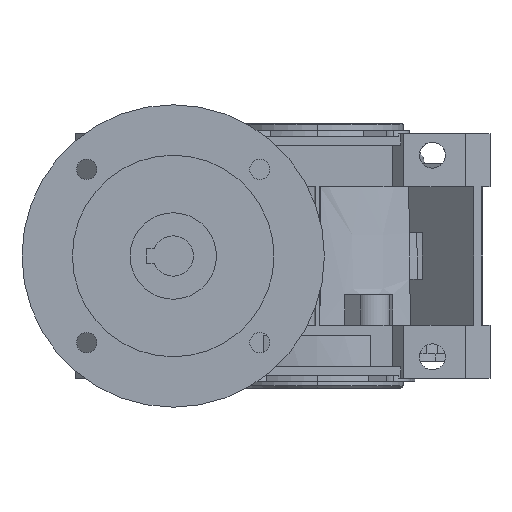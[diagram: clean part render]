
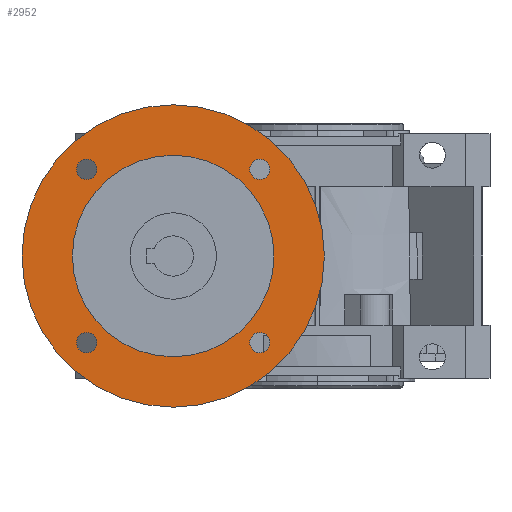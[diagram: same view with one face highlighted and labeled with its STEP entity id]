
A CAD part, left-side view. The second image highlights one B-rep face of the part: STEP entity #2952.
In plain terms, the highlighted planar face has unit normal (-1, 0, 0) as drawn and (1, 0, 0) by its records, which use the part's own axes.
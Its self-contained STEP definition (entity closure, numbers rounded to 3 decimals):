
#878 = CARTESIAN_POINT ( 'NONE',  ( 7., 0., -35. ) ) ;
#1840 = PLANE ( 'NONE',  #14402 ) ;
#1848 = ORIENTED_EDGE ( 'NONE', *, *, #2296, .F. ) ;
#2158 = CARTESIAN_POINT ( 'NONE',  ( 7., -30.052, -30.052 ) ) ;
#2296 = EDGE_CURVE ( 'NONE', #10609, #27817, #2341, .T. ) ;
#2341 = CIRCLE ( 'NONE', #9925, 3.5 ) ;
#2741 = CIRCLE ( 'NONE', #12490, 52.5 ) ;
#2952 = ADVANCED_FACE ( 'NONE', ( #3757, #27288, #18960, #32632, #22366, #17959 ), #1840, .F. ) ;
#3730 = CARTESIAN_POINT ( 'NONE',  ( 7., 30.052, -30.052 ) ) ;
#3757 = FACE_BOUND ( 'NONE', #29721, .T. ) ;
#4048 = AXIS2_PLACEMENT_3D ( 'NONE', #12158, #27523, #5608 ) ;
#4246 = CARTESIAN_POINT ( 'NONE',  ( 7., -30.052, 30.052 ) ) ;
#4553 = CARTESIAN_POINT ( 'NONE',  ( 7., 0., 0. ) ) ;
#4592 = ORIENTED_EDGE ( 'NONE', *, *, #9363, .F. ) ;
#4677 = EDGE_CURVE ( 'NONE', #39636, #30323, #18251, .T. ) ;
#4989 = CARTESIAN_POINT ( 'NONE',  ( 7., 30.052, 33.552 ) ) ;
#5204 = ORIENTED_EDGE ( 'NONE', *, *, #14499, .F. ) ;
#5250 = DIRECTION ( 'NONE',  ( 0., 0., 1. ) ) ;
#5608 = DIRECTION ( 'NONE',  ( 0., 1., 0. ) ) ;
#7645 = CIRCLE ( 'NONE', #35821, 35. ) ;
#8520 = EDGE_CURVE ( 'NONE', #30176, #20340, #35656, .T. ) ;
#9046 = CARTESIAN_POINT ( 'NONE',  ( 7., 0., 35. ) ) ;
#9363 = EDGE_CURVE ( 'NONE', #24656, #29842, #15992, .T. ) ;
#9758 = DIRECTION ( 'NONE',  ( 1., 0., 0. ) ) ;
#9884 = EDGE_CURVE ( 'NONE', #34877, #28606, #7645, .T. ) ;
#9925 = AXIS2_PLACEMENT_3D ( 'NONE', #35720, #35853, #32676 ) ;
#10235 = ORIENTED_EDGE ( 'NONE', *, *, #17240, .F. ) ;
#10363 = EDGE_CURVE ( 'NONE', #32055, #37561, #32056, .T. ) ;
#10387 = DIRECTION ( 'NONE',  ( 1., 0., 0. ) ) ;
#10609 = VERTEX_POINT ( 'NONE', #37401 ) ;
#10694 = EDGE_LOOP ( 'NONE', ( #4592, #28972 ) ) ;
#11110 = CIRCLE ( 'NONE', #37809, 3.5 ) ;
#11970 = DIRECTION ( 'NONE',  ( 1., 0., 0. ) ) ;
#12158 = CARTESIAN_POINT ( 'NONE',  ( 7., 30.052, 30.052 ) ) ;
#12449 = ORIENTED_EDGE ( 'NONE', *, *, #38571, .F. ) ;
#12490 = AXIS2_PLACEMENT_3D ( 'NONE', #31128, #18289, #21291 ) ;
#13698 = DIRECTION ( 'NONE',  ( 0., 0., 1. ) ) ;
#13792 = DIRECTION ( 'NONE',  ( 0., 0., -1. ) ) ;
#14402 = AXIS2_PLACEMENT_3D ( 'NONE', #33441, #20986, #30172 ) ;
#14419 = ORIENTED_EDGE ( 'NONE', *, *, #9884, .T. ) ;
#14499 = EDGE_CURVE ( 'NONE', #20340, #30176, #11110, .T. ) ;
#14801 = DIRECTION ( 'NONE',  ( -1., 0., 0. ) ) ;
#15128 = AXIS2_PLACEMENT_3D ( 'NONE', #2158, #27232, #39960 ) ;
#15194 = CARTESIAN_POINT ( 'NONE',  ( 7., 0., -52.5 ) ) ;
#15514 = DIRECTION ( 'NONE',  ( 0., -1., 0. ) ) ;
#15992 = CIRCLE ( 'NONE', #40274, 3.5 ) ;
#16795 = EDGE_LOOP ( 'NONE', ( #12449, #32021 ) ) ;
#16804 = AXIS2_PLACEMENT_3D ( 'NONE', #4553, #39316, #13698 ) ;
#17223 = AXIS2_PLACEMENT_3D ( 'NONE', #4246, #10387, #38604 ) ;
#17240 = EDGE_CURVE ( 'NONE', #27817, #10609, #37438, .T. ) ;
#17328 = EDGE_LOOP ( 'NONE', ( #14419, #20318 ) ) ;
#17959 = FACE_BOUND ( 'NONE', #17328, .T. ) ;
#18251 = CIRCLE ( 'NONE', #16804, 52.5 ) ;
#18289 = DIRECTION ( 'NONE',  ( -1., 0., 0. ) ) ;
#18960 = FACE_BOUND ( 'NONE', #10694, .T. ) ;
#20318 = ORIENTED_EDGE ( 'NONE', *, *, #36536, .T. ) ;
#20340 = VERTEX_POINT ( 'NONE', #23412 ) ;
#20986 = DIRECTION ( 'NONE',  ( -1., 0., 0. ) ) ;
#21084 = DIRECTION ( 'NONE',  ( 0., 0., 1. ) ) ;
#21199 = EDGE_LOOP ( 'NONE', ( #5204, #39967 ) ) ;
#21271 = CARTESIAN_POINT ( 'NONE',  ( 7., -30.052, -30.052 ) ) ;
#21291 = DIRECTION ( 'NONE',  ( 0., 0., 1. ) ) ;
#21499 = CIRCLE ( 'NONE', #17223, 3.5 ) ;
#22366 = FACE_OUTER_BOUND ( 'NONE', #16795, .T. ) ;
#23412 = CARTESIAN_POINT ( 'NONE',  ( 7., 30.052, -33.552 ) ) ;
#24656 = VERTEX_POINT ( 'NONE', #30375 ) ;
#25165 = ORIENTED_EDGE ( 'NONE', *, *, #10363, .F. ) ;
#26035 = DIRECTION ( 'NONE',  ( 1., 0., 0. ) ) ;
#26920 = EDGE_CURVE ( 'NONE', #29842, #24656, #39018, .T. ) ;
#27138 = DIRECTION ( 'NONE',  ( -1., 0., 0. ) ) ;
#27232 = DIRECTION ( 'NONE',  ( 1., 0., 0. ) ) ;
#27272 = CARTESIAN_POINT ( 'NONE',  ( 7., 30.052, -26.552 ) ) ;
#27288 = FACE_BOUND ( 'NONE', #31139, .T. ) ;
#27499 = CARTESIAN_POINT ( 'NONE',  ( 7., -30.052, -26.552 ) ) ;
#27523 = DIRECTION ( 'NONE',  ( 1., 0., 0. ) ) ;
#27545 = CARTESIAN_POINT ( 'NONE',  ( 7., 0., 0. ) ) ;
#27817 = VERTEX_POINT ( 'NONE', #4989 ) ;
#28290 = AXIS2_PLACEMENT_3D ( 'NONE', #35512, #32736, #35645 ) ;
#28454 = AXIS2_PLACEMENT_3D ( 'NONE', #29700, #26035, #13792 ) ;
#28606 = VERTEX_POINT ( 'NONE', #878 ) ;
#28919 = DIRECTION ( 'NONE',  ( 0., 0., -1. ) ) ;
#28972 = ORIENTED_EDGE ( 'NONE', *, *, #26920, .F. ) ;
#29700 = CARTESIAN_POINT ( 'NONE',  ( 7., 30.052, -30.052 ) ) ;
#29721 = EDGE_LOOP ( 'NONE', ( #1848, #10235 ) ) ;
#29842 = VERTEX_POINT ( 'NONE', #27499 ) ;
#30172 = DIRECTION ( 'NONE',  ( 0., 0., 1. ) ) ;
#30176 = VERTEX_POINT ( 'NONE', #27272 ) ;
#30323 = VERTEX_POINT ( 'NONE', #30661 ) ;
#30375 = CARTESIAN_POINT ( 'NONE',  ( 7., -30.052, -33.552 ) ) ;
#30661 = CARTESIAN_POINT ( 'NONE',  ( 7., 0., 52.5 ) ) ;
#31128 = CARTESIAN_POINT ( 'NONE',  ( 7., 0., 0. ) ) ;
#31139 = EDGE_LOOP ( 'NONE', ( #31624, #25165 ) ) ;
#31539 = CARTESIAN_POINT ( 'NONE',  ( 7., -30.052, 26.552 ) ) ;
#31624 = ORIENTED_EDGE ( 'NONE', *, *, #36719, .F. ) ;
#32021 = ORIENTED_EDGE ( 'NONE', *, *, #4677, .F. ) ;
#32055 = VERTEX_POINT ( 'NONE', #35181 ) ;
#32056 = CIRCLE ( 'NONE', #28290, 3.5 ) ;
#32632 = FACE_BOUND ( 'NONE', #21199, .T. ) ;
#32676 = DIRECTION ( 'NONE',  ( 0., 1., 0. ) ) ;
#32685 = AXIS2_PLACEMENT_3D ( 'NONE', #39887, #14801, #5250 ) ;
#32736 = DIRECTION ( 'NONE',  ( 1., 0., 0. ) ) ;
#33441 = CARTESIAN_POINT ( 'NONE',  ( 7., 52.5, 0. ) ) ;
#34877 = VERTEX_POINT ( 'NONE', #9046 ) ;
#35181 = CARTESIAN_POINT ( 'NONE',  ( 7., -30.052, 33.552 ) ) ;
#35512 = CARTESIAN_POINT ( 'NONE',  ( 7., -30.052, 30.052 ) ) ;
#35645 = DIRECTION ( 'NONE',  ( 0., 0., 1. ) ) ;
#35656 = CIRCLE ( 'NONE', #28454, 3.5 ) ;
#35720 = CARTESIAN_POINT ( 'NONE',  ( 7., 30.052, 30.052 ) ) ;
#35821 = AXIS2_PLACEMENT_3D ( 'NONE', #27545, #27138, #21084 ) ;
#35853 = DIRECTION ( 'NONE',  ( 1., 0., 0. ) ) ;
#36536 = EDGE_CURVE ( 'NONE', #28606, #34877, #38630, .T. ) ;
#36719 = EDGE_CURVE ( 'NONE', #37561, #32055, #21499, .T. ) ;
#37401 = CARTESIAN_POINT ( 'NONE',  ( 7., 30.052, 26.552 ) ) ;
#37438 = CIRCLE ( 'NONE', #4048, 3.5 ) ;
#37561 = VERTEX_POINT ( 'NONE', #31539 ) ;
#37809 = AXIS2_PLACEMENT_3D ( 'NONE', #3730, #9758, #28919 ) ;
#38571 = EDGE_CURVE ( 'NONE', #30323, #39636, #2741, .T. ) ;
#38604 = DIRECTION ( 'NONE',  ( 0., 0., 1. ) ) ;
#38630 = CIRCLE ( 'NONE', #32685, 35. ) ;
#39018 = CIRCLE ( 'NONE', #15128, 3.5 ) ;
#39316 = DIRECTION ( 'NONE',  ( -1., 0., 0. ) ) ;
#39636 = VERTEX_POINT ( 'NONE', #15194 ) ;
#39887 = CARTESIAN_POINT ( 'NONE',  ( 7., 0., 0. ) ) ;
#39960 = DIRECTION ( 'NONE',  ( 0., -1., 0. ) ) ;
#39967 = ORIENTED_EDGE ( 'NONE', *, *, #8520, .F. ) ;
#40274 = AXIS2_PLACEMENT_3D ( 'NONE', #21271, #11970, #15514 ) ;
